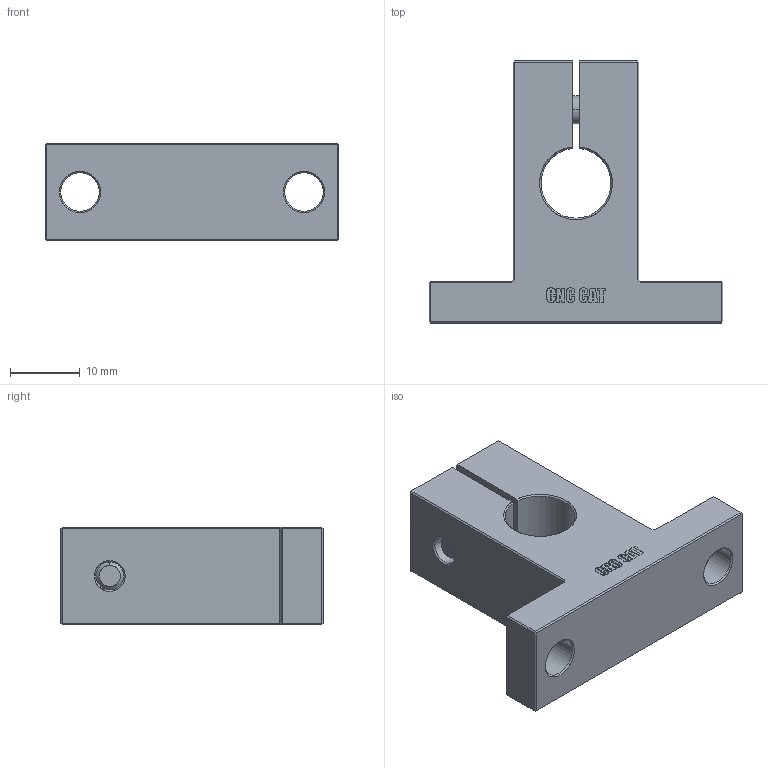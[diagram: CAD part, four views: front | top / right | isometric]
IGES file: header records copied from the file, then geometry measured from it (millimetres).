
Start section: SolidWorks IGES file using analytic representation for surfaces
Global section: file name: D:\SOLIDWORKS PROEKTI\freelance cnc cat\TRETA SERIJA SHF, SK\SK\SK10.IGS; native system: SolidWorks 2016; preprocessor: SolidWorks 2016; author: User; date: 170808.181959; units: millimetre
Bounding box: 42 x 37.5 x 14 mm (x, y, z)
Surface area: 4710.4 mm2 (no closed solid volume)
Topology: 0 solids, 0 shells, 191 faces, 2323 edges, 2802 vertices
Faces by surface type: bspline 150, revolution 41
